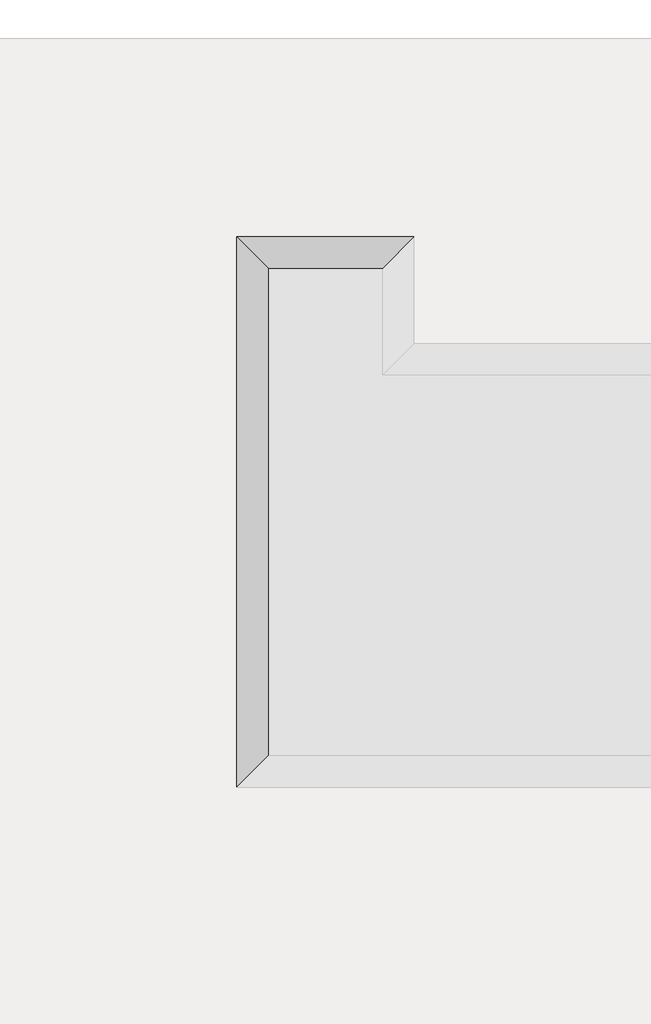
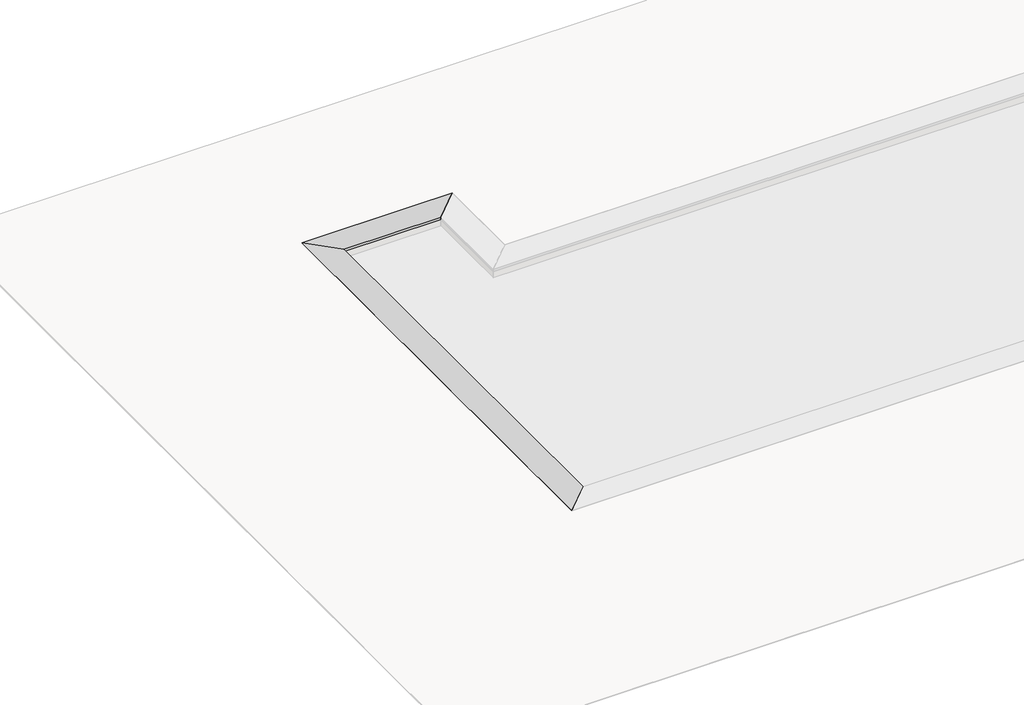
# One storey, part 4 of 6: 4 proxies.
"""IFC4 building model written with IfcOpenShell, lengths in millimetres."""

from ifc_helpers import new_model, si_unit, origin, place, context, project, spatial, faceted_brep, element, save

model = new_model("IFC4")

# Units and contexts
model_context = context("Model", 3, world=origin())
ifc_project = project(units=[si_unit("LENGTHUNIT", "METRE", prefix="MILLI")], contexts=[model_context])

# Site, building, storey
site = spatial("IfcSite", under=ifc_project)
building = spatial("IfcBuilding", under=site)
storey = spatial("IfcBuildingStorey", under=building, Name="EXAGRES_Serie NUBIA_Piscinas_ejemplo", Elevation=18000.0)

# Proxies
placement = place(None, origin())
element("IfcBuildingElementProxy", 1, Name="Wall Sweeps", at=placement, inside=storey, context=model_context, shape_type="Brep", body=[
    faceted_brep([(11358.1171839, -8556.6632512, 18000.0), (11371.1171839, -8543.6632512, 18000.0), (11371.1171839, -8543.6632512, 18033.0), (11041.1171839, -8873.6632512, 18033.0), (11041.1171839, -8873.6632512, 18021.0), (11047.1171839, -8867.6632512, 18021.0), (11047.1171839, -8867.6632512, 18022.0), (11051.1171839, -8863.6632512, 18022.0), (11051.1171839, -8863.6632512, 18021.0), (11057.1171839, -8857.6632512, 18021.0), (11057.1171839, -8857.6632512, 18022.0), (11061.1171839, -8853.6632512, 18022.0), (11061.1171839, -8853.6632512, 18021.0), (11067.1171839, -8847.6632512, 18021.0), (11067.1171839, -8847.6632512, 18022.0), (11071.1171839, -8843.6632512, 18022.0), (11071.1171839, -8843.6632512, 18021.0), (11077.1171839, -8837.6632512, 18021.0), (11077.1171839, -8837.6632512, 18022.0), (11081.1171839, -8833.6632512, 18022.0), (11081.1171839, -8833.6632512, 18021.0), (11087.1171839, -8827.6632512, 18021.0), (11087.1171839, -8827.6632512, 18022.0), (11091.1171839, -8823.6632512, 18022.0), (11091.1171839, -8823.6632512, 18021.0), (11097.1171839, -8817.6632512, 18021.0), (11097.1171839, -8817.6632512, 18022.0), (11101.1171839, -8813.6632512, 18022.0), (11101.1171839, -8813.6632512, 18021.0), (11107.1171839, -8807.6632512, 18021.0), (11107.1171839, -8807.6632512, 18022.0), (11111.1171839, -8803.6632512, 18022.0), (11111.1171839, -8803.6632512, 18021.0), (11117.1171839, -8797.6632512, 18021.0), (11117.1171839, -8797.6632512, 18022.0), (11121.1171839, -8793.6632512, 18022.0), (11121.1171839, -8793.6632512, 18021.0), (11127.1171839, -8787.6632512, 18021.0), (11127.1171839, -8787.6632512, 18022.0), (11131.1171839, -8783.6632512, 18022.0), (11131.1171839, -8783.6632512, 18021.0), (11137.1171839, -8777.6632512, 18021.0), (11137.1171839, -8777.6632512, 18022.0), (11141.1171839, -8773.6632512, 18022.0), (11141.1171839, -8773.6632512, 18021.0), (11147.1171839, -8767.6632512, 18021.0), (11147.1171839, -8767.6632512, 18022.0), (11151.1171839, -8763.6632512, 18022.0), (11151.1171839, -8763.6632512, 18021.0), (11157.1171839, -8757.6632512, 18021.0), (11157.1171839, -8757.6632512, 18022.0), (11161.1171839, -8753.6632512, 18022.0), (11161.1171839, -8753.6632512, 18021.0), (11167.1171839, -8747.6632512, 18021.0), (11167.1171839, -8747.6632512, 18022.0), (11171.1171839, -8743.6632512, 18022.0), (11171.1171839, -8743.6632512, 18021.0), (11177.1171839, -8737.6632512, 18021.0), (11177.1171839, -8737.6632512, 18022.0), (11181.1171839, -8733.6632512, 18022.0), (11181.1171839, -8733.6632512, 18021.0), (11187.1171839, -8727.6632512, 18021.0), (11187.1171839, -8727.6632512, 18022.0), (11191.1171839, -8723.6632512, 18022.0), (11191.1171839, -8723.6632512, 18021.0), (11197.1171839, -8717.6632512, 18021.0), (11197.1171839, -8717.6632512, 18022.0), (11201.1171839, -8713.6632512, 18022.0), (11201.1171839, -8713.6632512, 18021.0), (11207.1171839, -8707.6632512, 18021.0), (11207.1171839, -8707.6632512, 18022.0), (11211.1171839, -8703.6632512, 18022.0), (11211.1171839, -8703.6632512, 18021.0), (11217.1171839, -8697.6632512, 18021.0), (11217.1171839, -8697.6632512, 18022.0), (11221.1171839, -8693.6632512, 18022.0), (11221.1171839, -8693.6632512, 18021.0), (11227.1171839, -8687.6632512, 18021.0), (11227.1171839, -8687.6632512, 18022.0), (11231.1171839, -8683.6632512, 18022.0), (11231.1171839, -8683.6632512, 18021.0), (11237.1171839, -8677.6632512, 18021.0), (11237.1171839, -8677.6632512, 18022.0), (11241.1171839, -8673.6632512, 18022.0), (11241.1171839, -8673.6632512, 18021.0), (11247.1171839, -8667.6632512, 18021.0), (11247.1171839, -8667.6632512, 18022.0), (11251.1171839, -8663.6632512, 18022.0), (11251.1171839, -8663.6632512, 18021.0), (11257.1171839, -8657.6632512, 18021.0), (11257.1171839, -8657.6632512, 18022.0), (11261.1171839, -8653.6632512, 18022.0), (11261.1171839, -8653.6632512, 18021.0), (11267.1171839, -8647.6632512, 18021.0), (11267.1171839, -8647.6632512, 18022.0), (11271.1171839, -8643.6632512, 18022.0), (11271.1171839, -8643.6632512, 18021.0), (11277.1171839, -8637.6632512, 18021.0), (11277.1171839, -8637.6632512, 18022.0), (11281.1171839, -8633.6632512, 18022.0), (11281.1171839, -8633.6632512, 18021.0), (11287.1171839, -8627.6632512, 18021.0), (11287.1171839, -8627.6632512, 18022.0), (11291.1171839, -8623.6632512, 18022.0), (11291.1171839, -8623.6632512, 18021.0), (11297.1171839, -8617.6632512, 18021.0), (11297.1171839, -8617.6632512, 18022.0), (11301.1171839, -8613.6632512, 18022.0), (11301.1171839, -8613.6632512, 18021.0), (11307.1171839, -8607.6632512, 18021.0), (11307.1171839, -8607.6632512, 18022.0), (11311.1171839, -8603.6632512, 18022.0), (11311.1171839, -8603.6632512, 18021.0), (11317.1171839, -8597.6632512, 18021.0), (11317.1171839, -8597.6632512, 18022.0), (11321.1171839, -8593.6632512, 18022.0), (11321.1171839, -8593.6632512, 18021.0), (11327.1171839, -8587.6632512, 18021.0), (11327.1171839, -8587.6632512, 18022.0), (11331.1171839, -8583.6632512, 18022.0), (11331.1171839, -8583.6632512, 18021.0), (11337.1171839, -8577.6632512, 18021.0), (11337.1171839, -8577.6632512, 18022.0), (11341.1171839, -8573.6632512, 18022.0), (11341.1171839, -8573.6632512, 18021.0), (11347.1171839, -8567.6632512, 18021.0), (11347.1171839, -8567.6632512, 18022.0), (11351.1171839, -8563.6632512, 18022.0), (11351.1171839, -8563.6632512, 18021.0), (11358.1171839, -8556.6632512, 18021.0), (11358.1171839, -8556.6632512, 18014.0), (11359.1171839, -8555.6632512, 18014.0), (11359.1171839, -8555.6632512, 18008.0), (11358.1171839, -8556.6632512, 18008.0), (11358.1171839, -3410.6632512, 18000.0), (11358.1171839, -3410.6632512, 18008.0), (11359.1171839, -3411.6632512, 18008.0), (11359.1171839, -3411.6632512, 18014.0), (11358.1171839, -3410.6632512, 18014.0), (11358.1171839, -3410.6632512, 18021.0), (11351.1171839, -3403.6632512, 18021.0), (11351.1171839, -3403.6632512, 18022.0), (11347.1171839, -3399.6632512, 18022.0), (11347.1171839, -3399.6632512, 18021.0), (11341.1171839, -3393.6632512, 18021.0), (11341.1171839, -3393.6632512, 18022.0), (11337.1171839, -3389.6632512, 18022.0), (11337.1171839, -3389.6632512, 18021.0), (11331.1171839, -3383.6632512, 18021.0), (11331.1171839, -3383.6632512, 18022.0), (11327.1171839, -3379.6632512, 18022.0), (11327.1171839, -3379.6632512, 18021.0), (11321.1171839, -3373.6632512, 18021.0), (11321.1171839, -3373.6632512, 18022.0), (11317.1171839, -3369.6632512, 18022.0), (11317.1171839, -3369.6632512, 18021.0), (11311.1171839, -3363.6632512, 18021.0), (11311.1171839, -3363.6632512, 18022.0), (11307.1171839, -3359.6632512, 18022.0), (11307.1171839, -3359.6632512, 18021.0), (11301.1171839, -3353.6632512, 18021.0), (11301.1171839, -3353.6632512, 18022.0), (11297.1171839, -3349.6632512, 18022.0), (11297.1171839, -3349.6632512, 18021.0), (11291.1171839, -3343.6632512, 18021.0), (11291.1171839, -3343.6632512, 18022.0), (11287.1171839, -3339.6632512, 18022.0), (11287.1171839, -3339.6632512, 18021.0), (11281.1171839, -3333.6632512, 18021.0), (11281.1171839, -3333.6632512, 18022.0), (11277.1171839, -3329.6632512, 18022.0), (11277.1171839, -3329.6632512, 18021.0), (11271.1171839, -3323.6632512, 18021.0), (11271.1171839, -3323.6632512, 18022.0), (11267.1171839, -3319.6632512, 18022.0), (11267.1171839, -3319.6632512, 18021.0), (11261.1171839, -3313.6632512, 18021.0), (11261.1171839, -3313.6632512, 18022.0), (11257.1171839, -3309.6632512, 18022.0), (11257.1171839, -3309.6632512, 18021.0), (11251.1171839, -3303.6632512, 18021.0), (11251.1171839, -3303.6632512, 18022.0), (11247.1171839, -3299.6632512, 18022.0), (11247.1171839, -3299.6632512, 18021.0), (11241.1171839, -3293.6632512, 18021.0), (11241.1171839, -3293.6632512, 18022.0), (11237.1171839, -3289.6632512, 18022.0), (11237.1171839, -3289.6632512, 18021.0), (11231.1171839, -3283.6632512, 18021.0), (11231.1171839, -3283.6632512, 18022.0), (11227.1171839, -3279.6632512, 18022.0), (11227.1171839, -3279.6632512, 18021.0), (11221.1171839, -3273.6632512, 18021.0), (11221.1171839, -3273.6632512, 18022.0), (11217.1171839, -3269.6632512, 18022.0), (11217.1171839, -3269.6632512, 18021.0), (11211.1171839, -3263.6632512, 18021.0), (11211.1171839, -3263.6632512, 18022.0), (11207.1171839, -3259.6632512, 18022.0), (11207.1171839, -3259.6632512, 18021.0), (11201.1171839, -3253.6632512, 18021.0), (11201.1171839, -3253.6632512, 18022.0), (11197.1171839, -3249.6632512, 18022.0), (11197.1171839, -3249.6632512, 18021.0), (11191.1171839, -3243.6632512, 18021.0), (11191.1171839, -3243.6632512, 18022.0), (11187.1171839, -3239.6632512, 18022.0), (11187.1171839, -3239.6632512, 18021.0), (11181.1171839, -3233.6632512, 18021.0), (11181.1171839, -3233.6632512, 18022.0), (11177.1171839, -3229.6632512, 18022.0), (11177.1171839, -3229.6632512, 18021.0), (11171.1171839, -3223.6632512, 18021.0), (11171.1171839, -3223.6632512, 18022.0), (11167.1171839, -3219.6632512, 18022.0), (11167.1171839, -3219.6632512, 18021.0), (11161.1171839, -3213.6632512, 18021.0), (11161.1171839, -3213.6632512, 18022.0), (11157.1171839, -3209.6632512, 18022.0), (11157.1171839, -3209.6632512, 18021.0), (11151.1171839, -3203.6632512, 18021.0), (11151.1171839, -3203.6632512, 18022.0), (11147.1171839, -3199.6632512, 18022.0), (11147.1171839, -3199.6632512, 18021.0), (11141.1171839, -3193.6632512, 18021.0), (11141.1171839, -3193.6632512, 18022.0), (11137.1171839, -3189.6632512, 18022.0), (11137.1171839, -3189.6632512, 18021.0), (11131.1171839, -3183.6632512, 18021.0), (11131.1171839, -3183.6632512, 18022.0), (11127.1171839, -3179.6632512, 18022.0), (11127.1171839, -3179.6632512, 18021.0), (11121.1171839, -3173.6632512, 18021.0), (11121.1171839, -3173.6632512, 18022.0), (11117.1171839, -3169.6632512, 18022.0), (11117.1171839, -3169.6632512, 18021.0), (11111.1171839, -3163.6632512, 18021.0), (11111.1171839, -3163.6632512, 18022.0), (11107.1171839, -3159.6632512, 18022.0), (11107.1171839, -3159.6632512, 18021.0), (11101.1171839, -3153.6632512, 18021.0), (11101.1171839, -3153.6632512, 18022.0), (11097.1171839, -3149.6632512, 18022.0), (11097.1171839, -3149.6632512, 18021.0), (11091.1171839, -3143.6632512, 18021.0), (11091.1171839, -3143.6632512, 18022.0), (11087.1171839, -3139.6632512, 18022.0), (11087.1171839, -3139.6632512, 18021.0), (11081.1171839, -3133.6632512, 18021.0), (11081.1171839, -3133.6632512, 18022.0), (11077.1171839, -3129.6632512, 18022.0), (11077.1171839, -3129.6632512, 18021.0), (11071.1171839, -3123.6632512, 18021.0), (11071.1171839, -3123.6632512, 18022.0), (11067.1171839, -3119.6632512, 18022.0), (11067.1171839, -3119.6632512, 18021.0), (11061.1171839, -3113.6632512, 18021.0), (11061.1171839, -3113.6632512, 18022.0), (11057.1171839, -3109.6632512, 18022.0), (11057.1171839, -3109.6632512, 18021.0), (11051.1171839, -3103.6632512, 18021.0), (11051.1171839, -3103.6632512, 18022.0), (11047.1171839, -3099.6632512, 18022.0), (11047.1171839, -3099.6632512, 18021.0), (11041.1171839, -3093.6632512, 18021.0), (11041.1171839, -3093.6632512, 18033.0), (11371.1171839, -3423.6632512, 18033.0), (11371.1171839, -3423.6632512, 18000.0)], [[[0, 1, 2, 3, 4, 5, 6, 7, 8, 9, 10, 11, 12, 13, 14, 15, 16, 17, 18, 19, 20, 21, 22, 23, 24, 25, 26, 27, 28, 29, 30, 31, 32, 33, 34, 35, 36, 37, 38, 39, 40, 41, 42, 43, 44, 45, 46, 47, 48, 49, 50, 51, 52, 53, 54, 55, 56, 57, 58, 59, 60, 61, 62, 63, 64, 65, 66, 67, 68, 69, 70, 71, 72, 73, 74, 75, 76, 77, 78, 79, 80, 81, 82, 83, 84, 85, 86, 87, 88, 89, 90, 91, 92, 93, 94, 95, 96, 97, 98, 99, 100, 101, 102, 103, 104, 105, 106, 107, 108, 109, 110, 111, 112, 113, 114, 115, 116, 117, 118, 119, 120, 121, 122, 123, 124, 125, 126, 127, 128, 129, 130, 131, 132, 133]], [[134, 135, 136, 137, 138, 139, 140, 141, 142, 143, 144, 145, 146, 147, 148, 149, 150, 151, 152, 153, 154, 155, 156, 157, 158, 159, 160, 161, 162, 163, 164, 165, 166, 167, 168, 169, 170, 171, 172, 173, 174, 175, 176, 177, 178, 179, 180, 181, 182, 183, 184, 185, 186, 187, 188, 189, 190, 191, 192, 193, 194, 195, 196, 197, 198, 199, 200, 201, 202, 203, 204, 205, 206, 207, 208, 209, 210, 211, 212, 213, 214, 215, 216, 217, 218, 219, 220, 221, 222, 223, 224, 225, 226, 227, 228, 229, 230, 231, 232, 233, 234, 235, 236, 237, 238, 239, 240, 241, 242, 243, 244, 245, 246, 247, 248, 249, 250, 251, 252, 253, 254, 255, 256, 257, 258, 259, 260, 261, 262, 263, 264, 265, 266, 267]], [[1, 0, 134, 267]], [[2, 1, 267, 266]], [[3, 2, 266, 265]], [[4, 3, 265, 264]], [[5, 4, 264, 263]], [[6, 5, 263, 262]], [[7, 6, 262, 261]], [[8, 7, 261, 260]], [[9, 8, 260, 259]], [[10, 9, 259, 258]], [[11, 10, 258, 257]], [[12, 11, 257, 256]], [[13, 12, 256, 255]], [[14, 13, 255, 254]], [[15, 14, 254, 253]], [[16, 15, 253, 252]], [[17, 16, 252, 251]], [[18, 17, 251, 250]], [[19, 18, 250, 249]], [[20, 19, 249, 248]], [[21, 20, 248, 247]], [[22, 21, 247, 246]], [[23, 22, 246, 245]], [[24, 23, 245, 244]], [[25, 24, 244, 243]], [[26, 25, 243, 242]], [[27, 26, 242, 241]], [[28, 27, 241, 240]], [[29, 28, 240, 239]], [[30, 29, 239, 238]], [[31, 30, 238, 237]], [[32, 31, 237, 236]], [[33, 32, 236, 235]], [[34, 33, 235, 234]], [[35, 34, 234, 233]], [[36, 35, 233, 232]], [[37, 36, 232, 231]], [[38, 37, 231, 230]], [[39, 38, 230, 229]], [[40, 39, 229, 228]], [[41, 40, 228, 227]], [[42, 41, 227, 226]], [[43, 42, 226, 225]], [[44, 43, 225, 224]], [[45, 44, 224, 223]], [[46, 45, 223, 222]], [[47, 46, 222, 221]], [[48, 47, 221, 220]], [[49, 48, 220, 219]], [[50, 49, 219, 218]], [[51, 50, 218, 217]], [[52, 51, 217, 216]], [[53, 52, 216, 215]], [[54, 53, 215, 214]], [[55, 54, 214, 213]], [[56, 55, 213, 212]], [[57, 56, 212, 211]], [[58, 57, 211, 210]], [[59, 58, 210, 209]], [[60, 59, 209, 208]], [[61, 60, 208, 207]], [[62, 61, 207, 206]], [[63, 62, 206, 205]], [[64, 63, 205, 204]], [[65, 64, 204, 203]], [[66, 65, 203, 202]], [[67, 66, 202, 201]], [[68, 67, 201, 200]], [[69, 68, 200, 199]], [[70, 69, 199, 198]], [[71, 70, 198, 197]], [[72, 71, 197, 196]], [[73, 72, 196, 195]], [[74, 73, 195, 194]], [[75, 74, 194, 193]], [[76, 75, 193, 192]], [[77, 76, 192, 191]], [[78, 77, 191, 190]], [[79, 78, 190, 189]], [[80, 79, 189, 188]], [[81, 80, 188, 187]], [[82, 81, 187, 186]], [[83, 82, 186, 185]], [[84, 83, 185, 184]], [[85, 84, 184, 183]], [[86, 85, 183, 182]], [[87, 86, 182, 181]], [[88, 87, 181, 180]], [[89, 88, 180, 179]], [[90, 89, 179, 178]], [[91, 90, 178, 177]], [[92, 91, 177, 176]], [[93, 92, 176, 175]], [[94, 93, 175, 174]], [[95, 94, 174, 173]], [[96, 95, 173, 172]], [[97, 96, 172, 171]], [[98, 97, 171, 170]], [[99, 98, 170, 169]], [[100, 99, 169, 168]], [[101, 100, 168, 167]], [[102, 101, 167, 166]], [[103, 102, 166, 165]], [[104, 103, 165, 164]], [[105, 104, 164, 163]], [[106, 105, 163, 162]], [[107, 106, 162, 161]], [[108, 107, 161, 160]], [[109, 108, 160, 159]], [[110, 109, 159, 158]], [[111, 110, 158, 157]], [[112, 111, 157, 156]], [[113, 112, 156, 155]], [[114, 113, 155, 154]], [[115, 114, 154, 153]], [[116, 115, 153, 152]], [[117, 116, 152, 151]], [[118, 117, 151, 150]], [[119, 118, 150, 149]], [[120, 119, 149, 148]], [[121, 120, 148, 147]], [[122, 121, 147, 146]], [[123, 122, 146, 145]], [[124, 123, 145, 144]], [[125, 124, 144, 143]], [[126, 125, 143, 142]], [[127, 126, 142, 141]], [[128, 127, 141, 140]], [[129, 128, 140, 139]], [[130, 129, 139, 138]], [[131, 130, 138, 137]], [[132, 131, 137, 136]], [[133, 132, 136, 135]], [[0, 133, 135, 134]]]),
])
element("IfcBuildingElementProxy", 2, Name="Wall Sweeps", at=placement, inside=storey, context=model_context, shape_type="Brep", body=[
    faceted_brep([(11051.1171839, -8863.6632512, 17818.74), (11146.1171839, -8768.6632512, 17818.74), (11356.1171839, -8558.6632512, 17818.74), (11356.1171839, -8558.6632512, 18000.0), (11356.1171839, -8558.6632512, 18018.74), (11051.1171839, -8863.6632512, 18018.74), (11051.1171839, -3103.6632512, 17818.74), (11051.1171839, -3103.6632512, 18018.74), (11356.1171839, -3408.6632512, 18018.74), (11356.1171839, -3408.6632512, 18000.0), (11356.1171839, -3408.6632512, 17818.74), (11146.1171839, -3198.6632512, 17818.74)], [[[0, 1, 2, 3, 4, 5]], [[6, 7, 8, 9, 10, 11]], [[4, 3, 2, 10, 9, 8]], [[2, 1, 0, 6, 11, 10]], [[5, 4, 8, 7]], [[0, 5, 7, 6]]]),
])
element("IfcBuildingElementProxy", 3, Name="Wall Sweeps", at=placement, inside=storey, context=model_context, shape_type="Brep", body=[
    faceted_brep([(11358.1171839, -3410.6632512, 18000.0), (11371.1171839, -3423.6632512, 18000.0), (11371.1171839, -3423.6632512, 18033.0), (11041.1171839, -3093.6632512, 18033.0), (11041.1171839, -3093.6632512, 18021.0), (11047.1171839, -3099.6632512, 18021.0), (11047.1171839, -3099.6632512, 18022.0), (11051.1171839, -3103.6632512, 18022.0), (11051.1171839, -3103.6632512, 18021.0), (11057.1171839, -3109.6632512, 18021.0), (11057.1171839, -3109.6632512, 18022.0), (11061.1171839, -3113.6632512, 18022.0), (11061.1171839, -3113.6632512, 18021.0), (11067.1171839, -3119.6632512, 18021.0), (11067.1171839, -3119.6632512, 18022.0), (11071.1171839, -3123.6632512, 18022.0), (11071.1171839, -3123.6632512, 18021.0), (11077.1171839, -3129.6632512, 18021.0), (11077.1171839, -3129.6632512, 18022.0), (11081.1171839, -3133.6632512, 18022.0), (11081.1171839, -3133.6632512, 18021.0), (11087.1171839, -3139.6632512, 18021.0), (11087.1171839, -3139.6632512, 18022.0), (11091.1171839, -3143.6632512, 18022.0), (11091.1171839, -3143.6632512, 18021.0), (11097.1171839, -3149.6632512, 18021.0), (11097.1171839, -3149.6632512, 18022.0), (11101.1171839, -3153.6632512, 18022.0), (11101.1171839, -3153.6632512, 18021.0), (11107.1171839, -3159.6632512, 18021.0), (11107.1171839, -3159.6632512, 18022.0), (11111.1171839, -3163.6632512, 18022.0), (11111.1171839, -3163.6632512, 18021.0), (11117.1171839, -3169.6632512, 18021.0), (11117.1171839, -3169.6632512, 18022.0), (11121.1171839, -3173.6632512, 18022.0), (11121.1171839, -3173.6632512, 18021.0), (11127.1171839, -3179.6632512, 18021.0), (11127.1171839, -3179.6632512, 18022.0), (11131.1171839, -3183.6632512, 18022.0), (11131.1171839, -3183.6632512, 18021.0), (11137.1171839, -3189.6632512, 18021.0), (11137.1171839, -3189.6632512, 18022.0), (11141.1171839, -3193.6632512, 18022.0), (11141.1171839, -3193.6632512, 18021.0), (11147.1171839, -3199.6632512, 18021.0), (11147.1171839, -3199.6632512, 18022.0), (11151.1171839, -3203.6632512, 18022.0), (11151.1171839, -3203.6632512, 18021.0), (11157.1171839, -3209.6632512, 18021.0), (11157.1171839, -3209.6632512, 18022.0), (11161.1171839, -3213.6632512, 18022.0), (11161.1171839, -3213.6632512, 18021.0), (11167.1171839, -3219.6632512, 18021.0), (11167.1171839, -3219.6632512, 18022.0), (11171.1171839, -3223.6632512, 18022.0), (11171.1171839, -3223.6632512, 18021.0), (11177.1171839, -3229.6632512, 18021.0), (11177.1171839, -3229.6632512, 18022.0), (11181.1171839, -3233.6632512, 18022.0), (11181.1171839, -3233.6632512, 18021.0), (11187.1171839, -3239.6632512, 18021.0), (11187.1171839, -3239.6632512, 18022.0), (11191.1171839, -3243.6632512, 18022.0), (11191.1171839, -3243.6632512, 18021.0), (11197.1171839, -3249.6632512, 18021.0), (11197.1171839, -3249.6632512, 18022.0), (11201.1171839, -3253.6632512, 18022.0), (11201.1171839, -3253.6632512, 18021.0), (11207.1171839, -3259.6632512, 18021.0), (11207.1171839, -3259.6632512, 18022.0), (11211.1171839, -3263.6632512, 18022.0), (11211.1171839, -3263.6632512, 18021.0), (11217.1171839, -3269.6632512, 18021.0), (11217.1171839, -3269.6632512, 18022.0), (11221.1171839, -3273.6632512, 18022.0), (11221.1171839, -3273.6632512, 18021.0), (11227.1171839, -3279.6632512, 18021.0), (11227.1171839, -3279.6632512, 18022.0), (11231.1171839, -3283.6632512, 18022.0), (11231.1171839, -3283.6632512, 18021.0), (11237.1171839, -3289.6632512, 18021.0), (11237.1171839, -3289.6632512, 18022.0), (11241.1171839, -3293.6632512, 18022.0), (11241.1171839, -3293.6632512, 18021.0), (11247.1171839, -3299.6632512, 18021.0), (11247.1171839, -3299.6632512, 18022.0), (11251.1171839, -3303.6632512, 18022.0), (11251.1171839, -3303.6632512, 18021.0), (11257.1171839, -3309.6632512, 18021.0), (11257.1171839, -3309.6632512, 18022.0), (11261.1171839, -3313.6632512, 18022.0), (11261.1171839, -3313.6632512, 18021.0), (11267.1171839, -3319.6632512, 18021.0), (11267.1171839, -3319.6632512, 18022.0), (11271.1171839, -3323.6632512, 18022.0), (11271.1171839, -3323.6632512, 18021.0), (11277.1171839, -3329.6632512, 18021.0), (11277.1171839, -3329.6632512, 18022.0), (11281.1171839, -3333.6632512, 18022.0), (11281.1171839, -3333.6632512, 18021.0), (11287.1171839, -3339.6632512, 18021.0), (11287.1171839, -3339.6632512, 18022.0), (11291.1171839, -3343.6632512, 18022.0), (11291.1171839, -3343.6632512, 18021.0), (11297.1171839, -3349.6632512, 18021.0), (11297.1171839, -3349.6632512, 18022.0), (11301.1171839, -3353.6632512, 18022.0), (11301.1171839, -3353.6632512, 18021.0), (11307.1171839, -3359.6632512, 18021.0), (11307.1171839, -3359.6632512, 18022.0), (11311.1171839, -3363.6632512, 18022.0), (11311.1171839, -3363.6632512, 18021.0), (11317.1171839, -3369.6632512, 18021.0), (11317.1171839, -3369.6632512, 18022.0), (11321.1171839, -3373.6632512, 18022.0), (11321.1171839, -3373.6632512, 18021.0), (11327.1171839, -3379.6632512, 18021.0), (11327.1171839, -3379.6632512, 18022.0), (11331.1171839, -3383.6632512, 18022.0), (11331.1171839, -3383.6632512, 18021.0), (11337.1171839, -3389.6632512, 18021.0), (11337.1171839, -3389.6632512, 18022.0), (11341.1171839, -3393.6632512, 18022.0), (11341.1171839, -3393.6632512, 18021.0), (11347.1171839, -3399.6632512, 18021.0), (11347.1171839, -3399.6632512, 18022.0), (11351.1171839, -3403.6632512, 18022.0), (11351.1171839, -3403.6632512, 18021.0), (11358.1171839, -3410.6632512, 18021.0), (11358.1171839, -3410.6632512, 18014.0), (11359.1171839, -3411.6632512, 18014.0), (11359.1171839, -3411.6632512, 18008.0), (11358.1171839, -3410.6632512, 18008.0), (12584.1171839, -3410.6632512, 18000.0), (12584.1171839, -3410.6632512, 18008.0), (12583.1171839, -3411.6632512, 18008.0), (12583.1171839, -3411.6632512, 18014.0), (12584.1171839, -3410.6632512, 18014.0), (12584.1171839, -3410.6632512, 18021.0), (12591.1171839, -3403.6632512, 18021.0), (12591.1171839, -3403.6632512, 18022.0), (12595.1171839, -3399.6632512, 18022.0), (12595.1171839, -3399.6632512, 18021.0), (12601.1171839, -3393.6632512, 18021.0), (12601.1171839, -3393.6632512, 18022.0), (12605.1171839, -3389.6632512, 18022.0), (12605.1171839, -3389.6632512, 18021.0), (12611.1171839, -3383.6632512, 18021.0), (12611.1171839, -3383.6632512, 18022.0), (12615.1171839, -3379.6632512, 18022.0), (12615.1171839, -3379.6632512, 18021.0), (12621.1171839, -3373.6632512, 18021.0), (12621.1171839, -3373.6632512, 18022.0), (12625.1171839, -3369.6632512, 18022.0), (12625.1171839, -3369.6632512, 18021.0), (12631.1171839, -3363.6632512, 18021.0), (12631.1171839, -3363.6632512, 18022.0), (12635.1171839, -3359.6632512, 18022.0), (12635.1171839, -3359.6632512, 18021.0), (12641.1171839, -3353.6632512, 18021.0), (12641.1171839, -3353.6632512, 18022.0), (12645.1171839, -3349.6632512, 18022.0), (12645.1171839, -3349.6632512, 18021.0), (12651.1171839, -3343.6632512, 18021.0), (12651.1171839, -3343.6632512, 18022.0), (12655.1171839, -3339.6632512, 18022.0), (12655.1171839, -3339.6632512, 18021.0), (12661.1171839, -3333.6632512, 18021.0), (12661.1171839, -3333.6632512, 18022.0), (12665.1171839, -3329.6632512, 18022.0), (12665.1171839, -3329.6632512, 18021.0), (12671.1171839, -3323.6632512, 18021.0), (12671.1171839, -3323.6632512, 18022.0), (12675.1171839, -3319.6632512, 18022.0), (12675.1171839, -3319.6632512, 18021.0), (12681.1171839, -3313.6632512, 18021.0), (12681.1171839, -3313.6632512, 18022.0), (12685.1171839, -3309.6632512, 18022.0), (12685.1171839, -3309.6632512, 18021.0), (12691.1171839, -3303.6632512, 18021.0), (12691.1171839, -3303.6632512, 18022.0), (12695.1171839, -3299.6632512, 18022.0), (12695.1171839, -3299.6632512, 18021.0), (12701.1171839, -3293.6632512, 18021.0), (12701.1171839, -3293.6632512, 18022.0), (12705.1171839, -3289.6632512, 18022.0), (12705.1171839, -3289.6632512, 18021.0), (12711.1171839, -3283.6632512, 18021.0), (12711.1171839, -3283.6632512, 18022.0), (12715.1171839, -3279.6632512, 18022.0), (12715.1171839, -3279.6632512, 18021.0), (12721.1171839, -3273.6632512, 18021.0), (12721.1171839, -3273.6632512, 18022.0), (12725.1171839, -3269.6632512, 18022.0), (12725.1171839, -3269.6632512, 18021.0), (12731.1171839, -3263.6632512, 18021.0), (12731.1171839, -3263.6632512, 18022.0), (12735.1171839, -3259.6632512, 18022.0), (12735.1171839, -3259.6632512, 18021.0), (12741.1171839, -3253.6632512, 18021.0), (12741.1171839, -3253.6632512, 18022.0), (12745.1171839, -3249.6632512, 18022.0), (12745.1171839, -3249.6632512, 18021.0), (12751.1171839, -3243.6632512, 18021.0), (12751.1171839, -3243.6632512, 18022.0), (12755.1171839, -3239.6632512, 18022.0), (12755.1171839, -3239.6632512, 18021.0), (12761.1171839, -3233.6632512, 18021.0), (12761.1171839, -3233.6632512, 18022.0), (12765.1171839, -3229.6632512, 18022.0), (12765.1171839, -3229.6632512, 18021.0), (12771.1171839, -3223.6632512, 18021.0), (12771.1171839, -3223.6632512, 18022.0), (12775.1171839, -3219.6632512, 18022.0), (12775.1171839, -3219.6632512, 18021.0), (12781.1171839, -3213.6632512, 18021.0), (12781.1171839, -3213.6632512, 18022.0), (12785.1171839, -3209.6632512, 18022.0), (12785.1171839, -3209.6632512, 18021.0), (12791.1171839, -3203.6632512, 18021.0), (12791.1171839, -3203.6632512, 18022.0), (12795.1171839, -3199.6632512, 18022.0), (12795.1171839, -3199.6632512, 18021.0), (12801.1171839, -3193.6632512, 18021.0), (12801.1171839, -3193.6632512, 18022.0), (12805.1171839, -3189.6632512, 18022.0), (12805.1171839, -3189.6632512, 18021.0), (12811.1171839, -3183.6632512, 18021.0), (12811.1171839, -3183.6632512, 18022.0), (12815.1171839, -3179.6632512, 18022.0), (12815.1171839, -3179.6632512, 18021.0), (12821.1171839, -3173.6632512, 18021.0), (12821.1171839, -3173.6632512, 18022.0), (12825.1171839, -3169.6632512, 18022.0), (12825.1171839, -3169.6632512, 18021.0), (12831.1171839, -3163.6632512, 18021.0), (12831.1171839, -3163.6632512, 18022.0), (12835.1171839, -3159.6632512, 18022.0), (12835.1171839, -3159.6632512, 18021.0), (12841.1171839, -3153.6632512, 18021.0), (12841.1171839, -3153.6632512, 18022.0), (12845.1171839, -3149.6632512, 18022.0), (12845.1171839, -3149.6632512, 18021.0), (12851.1171839, -3143.6632512, 18021.0), (12851.1171839, -3143.6632512, 18022.0), (12855.1171839, -3139.6632512, 18022.0), (12855.1171839, -3139.6632512, 18021.0), (12861.1171839, -3133.6632512, 18021.0), (12861.1171839, -3133.6632512, 18022.0), (12865.1171839, -3129.6632512, 18022.0), (12865.1171839, -3129.6632512, 18021.0), (12871.1171839, -3123.6632512, 18021.0), (12871.1171839, -3123.6632512, 18022.0), (12875.1171839, -3119.6632512, 18022.0), (12875.1171839, -3119.6632512, 18021.0), (12881.1171839, -3113.6632512, 18021.0), (12881.1171839, -3113.6632512, 18022.0), (12885.1171839, -3109.6632512, 18022.0), (12885.1171839, -3109.6632512, 18021.0), (12891.1171839, -3103.6632512, 18021.0), (12891.1171839, -3103.6632512, 18022.0), (12895.1171839, -3099.6632512, 18022.0), (12895.1171839, -3099.6632512, 18021.0), (12901.1171839, -3093.6632512, 18021.0), (12901.1171839, -3093.6632512, 18033.0), (12571.1171839, -3423.6632512, 18033.0), (12571.1171839, -3423.6632512, 18000.0)], [[[0, 1, 2, 3, 4, 5, 6, 7, 8, 9, 10, 11, 12, 13, 14, 15, 16, 17, 18, 19, 20, 21, 22, 23, 24, 25, 26, 27, 28, 29, 30, 31, 32, 33, 34, 35, 36, 37, 38, 39, 40, 41, 42, 43, 44, 45, 46, 47, 48, 49, 50, 51, 52, 53, 54, 55, 56, 57, 58, 59, 60, 61, 62, 63, 64, 65, 66, 67, 68, 69, 70, 71, 72, 73, 74, 75, 76, 77, 78, 79, 80, 81, 82, 83, 84, 85, 86, 87, 88, 89, 90, 91, 92, 93, 94, 95, 96, 97, 98, 99, 100, 101, 102, 103, 104, 105, 106, 107, 108, 109, 110, 111, 112, 113, 114, 115, 116, 117, 118, 119, 120, 121, 122, 123, 124, 125, 126, 127, 128, 129, 130, 131, 132, 133]], [[134, 135, 136, 137, 138, 139, 140, 141, 142, 143, 144, 145, 146, 147, 148, 149, 150, 151, 152, 153, 154, 155, 156, 157, 158, 159, 160, 161, 162, 163, 164, 165, 166, 167, 168, 169, 170, 171, 172, 173, 174, 175, 176, 177, 178, 179, 180, 181, 182, 183, 184, 185, 186, 187, 188, 189, 190, 191, 192, 193, 194, 195, 196, 197, 198, 199, 200, 201, 202, 203, 204, 205, 206, 207, 208, 209, 210, 211, 212, 213, 214, 215, 216, 217, 218, 219, 220, 221, 222, 223, 224, 225, 226, 227, 228, 229, 230, 231, 232, 233, 234, 235, 236, 237, 238, 239, 240, 241, 242, 243, 244, 245, 246, 247, 248, 249, 250, 251, 252, 253, 254, 255, 256, 257, 258, 259, 260, 261, 262, 263, 264, 265, 266, 267]], [[1, 0, 134, 267]], [[2, 1, 267, 266]], [[3, 2, 266, 265]], [[4, 3, 265, 264]], [[5, 4, 264, 263]], [[6, 5, 263, 262]], [[7, 6, 262, 261]], [[8, 7, 261, 260]], [[9, 8, 260, 259]], [[10, 9, 259, 258]], [[11, 10, 258, 257]], [[12, 11, 257, 256]], [[13, 12, 256, 255]], [[14, 13, 255, 254]], [[15, 14, 254, 253]], [[16, 15, 253, 252]], [[17, 16, 252, 251]], [[18, 17, 251, 250]], [[19, 18, 250, 249]], [[20, 19, 249, 248]], [[21, 20, 248, 247]], [[22, 21, 247, 246]], [[23, 22, 246, 245]], [[24, 23, 245, 244]], [[25, 24, 244, 243]], [[26, 25, 243, 242]], [[27, 26, 242, 241]], [[28, 27, 241, 240]], [[29, 28, 240, 239]], [[30, 29, 239, 238]], [[31, 30, 238, 237]], [[32, 31, 237, 236]], [[33, 32, 236, 235]], [[34, 33, 235, 234]], [[35, 34, 234, 233]], [[36, 35, 233, 232]], [[37, 36, 232, 231]], [[38, 37, 231, 230]], [[39, 38, 230, 229]], [[40, 39, 229, 228]], [[41, 40, 228, 227]], [[42, 41, 227, 226]], [[43, 42, 226, 225]], [[44, 43, 225, 224]], [[45, 44, 224, 223]], [[46, 45, 223, 222]], [[47, 46, 222, 221]], [[48, 47, 221, 220]], [[49, 48, 220, 219]], [[50, 49, 219, 218]], [[51, 50, 218, 217]], [[52, 51, 217, 216]], [[53, 52, 216, 215]], [[54, 53, 215, 214]], [[55, 54, 214, 213]], [[56, 55, 213, 212]], [[57, 56, 212, 211]], [[58, 57, 211, 210]], [[59, 58, 210, 209]], [[60, 59, 209, 208]], [[61, 60, 208, 207]], [[62, 61, 207, 206]], [[63, 62, 206, 205]], [[64, 63, 205, 204]], [[65, 64, 204, 203]], [[66, 65, 203, 202]], [[67, 66, 202, 201]], [[68, 67, 201, 200]], [[69, 68, 200, 199]], [[70, 69, 199, 198]], [[71, 70, 198, 197]], [[72, 71, 197, 196]], [[73, 72, 196, 195]], [[74, 73, 195, 194]], [[75, 74, 194, 193]], [[76, 75, 193, 192]], [[77, 76, 192, 191]], [[78, 77, 191, 190]], [[79, 78, 190, 189]], [[80, 79, 189, 188]], [[81, 80, 188, 187]], [[82, 81, 187, 186]], [[83, 82, 186, 185]], [[84, 83, 185, 184]], [[85, 84, 184, 183]], [[86, 85, 183, 182]], [[87, 86, 182, 181]], [[88, 87, 181, 180]], [[89, 88, 180, 179]], [[90, 89, 179, 178]], [[91, 90, 178, 177]], [[92, 91, 177, 176]], [[93, 92, 176, 175]], [[94, 93, 175, 174]], [[95, 94, 174, 173]], [[96, 95, 173, 172]], [[97, 96, 172, 171]], [[98, 97, 171, 170]], [[99, 98, 170, 169]], [[100, 99, 169, 168]], [[101, 100, 168, 167]], [[102, 101, 167, 166]], [[103, 102, 166, 165]], [[104, 103, 165, 164]], [[105, 104, 164, 163]], [[106, 105, 163, 162]], [[107, 106, 162, 161]], [[108, 107, 161, 160]], [[109, 108, 160, 159]], [[110, 109, 159, 158]], [[111, 110, 158, 157]], [[112, 111, 157, 156]], [[113, 112, 156, 155]], [[114, 113, 155, 154]], [[115, 114, 154, 153]], [[116, 115, 153, 152]], [[117, 116, 152, 151]], [[118, 117, 151, 150]], [[119, 118, 150, 149]], [[120, 119, 149, 148]], [[121, 120, 148, 147]], [[122, 121, 147, 146]], [[123, 122, 146, 145]], [[124, 123, 145, 144]], [[125, 124, 144, 143]], [[126, 125, 143, 142]], [[127, 126, 142, 141]], [[128, 127, 141, 140]], [[129, 128, 140, 139]], [[130, 129, 139, 138]], [[131, 130, 138, 137]], [[132, 131, 137, 136]], [[133, 132, 136, 135]], [[0, 133, 135, 134]]]),
])
element("IfcBuildingElementProxy", 4, Name="Wall Sweeps", at=placement, inside=storey, context=model_context, shape_type="Brep", body=[
    faceted_brep([(11051.1171839, -3103.6632512, 17818.74), (11146.1171839, -3198.6632512, 17818.74), (11356.1171839, -3408.6632512, 17818.74), (11356.1171839, -3408.6632512, 18000.0), (11356.1171839, -3408.6632512, 18018.74), (11051.1171839, -3103.6632512, 18018.74), (12891.1171839, -3103.6632512, 17818.74), (12891.1171839, -3103.6632512, 18018.74), (12586.1171839, -3408.6632512, 18018.74), (12586.1171839, -3408.6632512, 18000.0), (12586.1171839, -3408.6632512, 17818.74), (12796.1171839, -3198.6632512, 17818.74)], [[[0, 1, 2, 3, 4, 5]], [[6, 7, 8, 9, 10, 11]], [[4, 3, 2, 10, 9, 8]], [[2, 1, 0, 6, 11, 10]], [[5, 4, 8, 7]], [[0, 5, 7, 6]]]),
])

save(model, "model.ifc")
